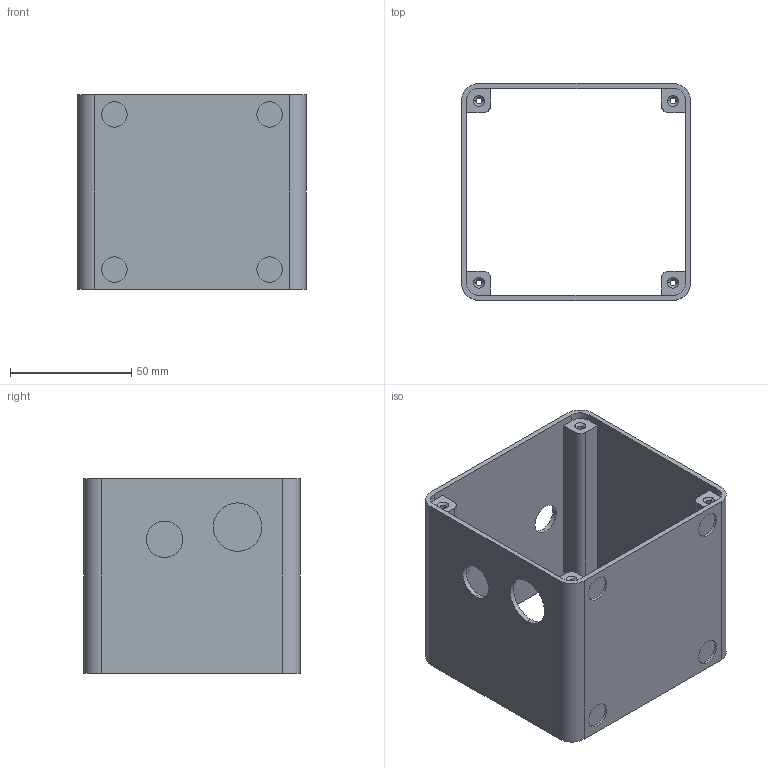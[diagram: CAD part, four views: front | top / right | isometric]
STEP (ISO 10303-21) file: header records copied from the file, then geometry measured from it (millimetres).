
FILE_DESCRIPTION (( 'STEP AP214' ), '1' );
FILE_NAME ('Êîðïóñ.STEP', '2021-11-10T11:29:33', ( 'j03075@gmail.com' ), ( '' ), 'SwSTEP 2.0', 'SolidWorks 2021', '' );
FILE_SCHEMA (( 'AUTOMOTIVE_DESIGN' ));
Length unit declared in the file: millimetre
Products named in the file (1): 扻豵鵨
Bounding box: 94.4 x 89.4 x 80 mm (x, y, z)
Volume: 79831.8 mm3; surface area: 59541.8 mm2
Topology: 1 solids, 1 shells, 86 faces, 224 edges, 144 vertices
Faces by surface type: cylinder 40, plane 30, cone 16
Entity records: 2726 total; most frequent: DIRECTION 494, CARTESIAN_POINT 455, ORIENTED_EDGE 448, EDGE_CURVE 224, AXIS2_PLACEMENT_3D 183, VERTEX_POINT 144, LINE 128, VECTOR 128
